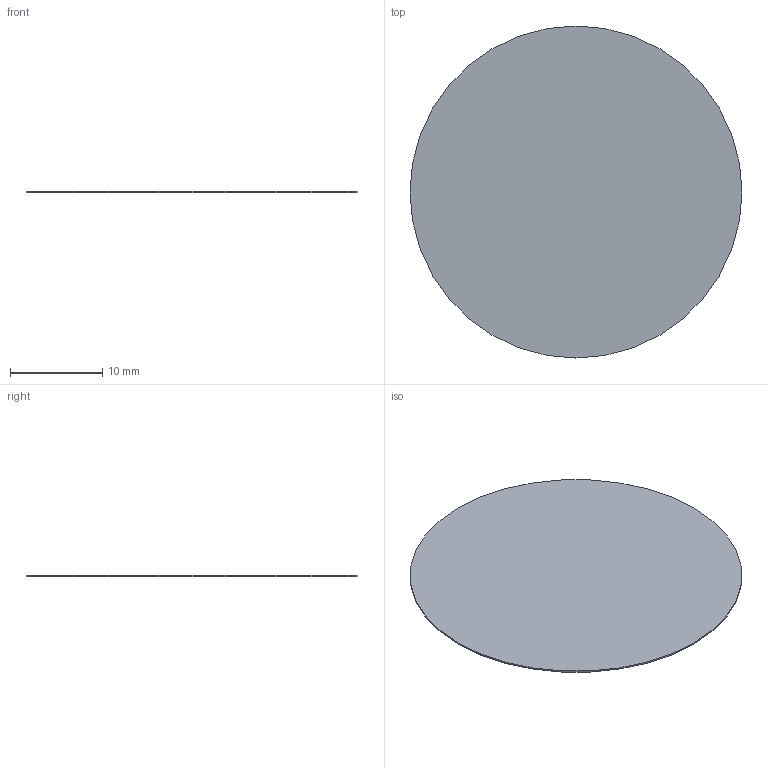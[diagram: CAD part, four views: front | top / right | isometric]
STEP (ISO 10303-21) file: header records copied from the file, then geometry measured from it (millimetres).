
FILE_DESCRIPTION(('Open CASCADE Model'),'2;1');
FILE_NAME('Open CASCADE Shape Model','2026-10-04T01:02:36',('Author'),( 'Open CASCADE'),'Open CASCADE STEP processor 8.0','Open CASCADE 8.0' ,'Unknown');
FILE_SCHEMA(('AUTOMOTIVE_DESIGN { 1 0 10303 214 1 1 1 1 }'));
Length unit declared in the file: millimetre
Products named in the file (1): Open CASCADE STEP translator 8.0 413
Bounding box: 36 x 36 x 0.15 mm (x, y, z)
Volume: 152.7 mm3; surface area: 2052.7 mm2
Topology: 1 solids, 1 shells, 3 faces, 3 edges, 2 vertices
Faces by surface type: plane 2, cylinder 1
Full cylindrical faces by diameter (mm): 36 x1
Entity records: 108 total; most frequent: DIRECTION 19, CARTESIAN_POINT 15, AXIS2_PLACEMENT_3D 6, ORIENTED_EDGE 6, PCURVE 6, DEFINITIONAL_REPRESENTATION 6, LINE 5, VECTOR 5
